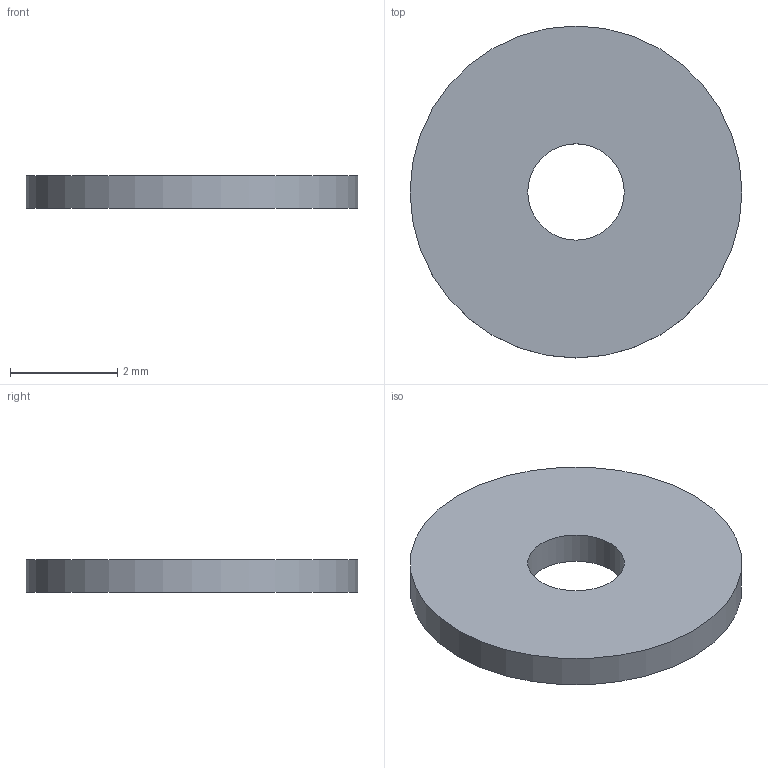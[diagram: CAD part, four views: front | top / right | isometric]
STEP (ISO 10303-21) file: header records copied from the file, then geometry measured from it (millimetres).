
FILE_DESCRIPTION(('Open CASCADE Model'),'2;1');
FILE_NAME('Open CASCADE Shape Model','2026-09-06T11:30:36',('Author'),( 'Open CASCADE'),'Open CASCADE STEP processor 7.7','Open CASCADE 7.7' ,'Unknown');
FILE_SCHEMA(('AUTOMOTIVE_DESIGN { 1 0 10303 214 1 1 1 1 }'));
Length unit declared in the file: millimetre
Products named in the file (1): Open CASCADE STEP translator 7.7 10
Bounding box: 6.2 x 6.2 x 0.6 mm (x, y, z)
Volume: 16.6 mm3; surface area: 70.4 mm2
Topology: 1 solids, 1 shells, 4 faces, 6 edges, 4 vertices
Faces by surface type: cylinder 2, plane 2
Full cylindrical faces by diameter (mm): 1.8 x1, 6.2 x1
Entity records: 192 total; most frequent: CARTESIAN_POINT 39, DIRECTION 30, ORIENTED_EDGE 12, PCURVE 12, DEFINITIONAL_REPRESENTATION 12, LINE 10, VECTOR 10, AXIS2_PLACEMENT_3D 9
